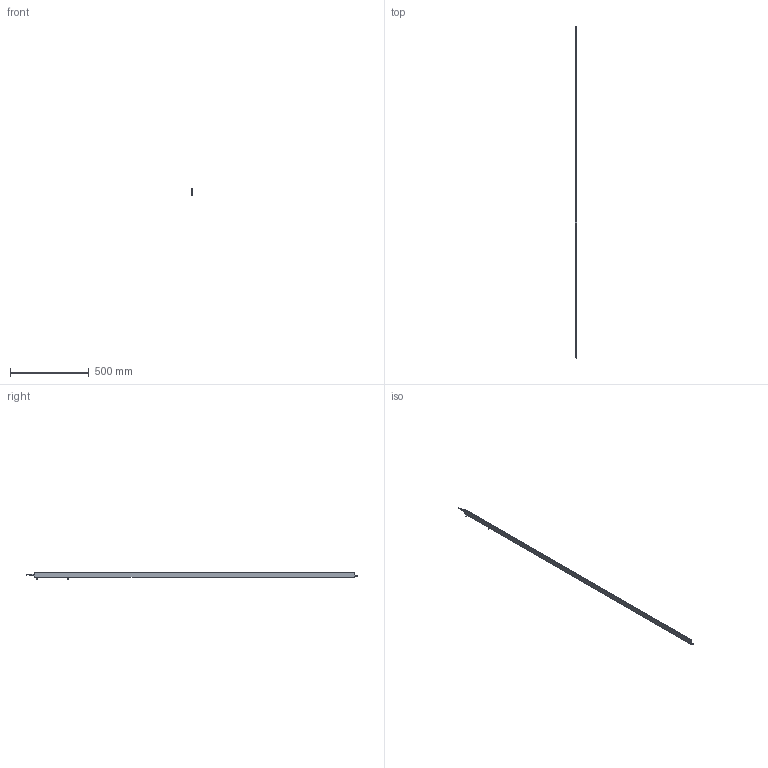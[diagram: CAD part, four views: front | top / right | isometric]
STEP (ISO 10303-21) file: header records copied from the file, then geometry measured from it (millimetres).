
FILE_DESCRIPTION (( 'STEP AP214' ), '1' );
FILE_NAME ('ILG-B-K2-2040mm.STEP', '2017-07-10T13:03:54', ( '' ), ( '' ), 'SwSTEP 2.0', 'SolidWorks 2016', '' );
FILE_SCHEMA (( 'AUTOMOTIVE_DESIGN' ));
Length unit declared in the file: millimetre
Products named in the file (1): ILG-B-K2-2040mm
Bounding box: 9 x 2113.5 x 46.21 mm (x, y, z)
Surface area: 339200.4 mm2 (no closed solid volume)
Topology: 0 solids, 15 shells, 702 faces, 1822 edges, 1157 vertices
Faces by surface type: cylinder 287, plane 266, cone 99, bspline 32, torus 18
Entity records: 31388 total; most frequent: CARTESIAN_POINT 6631, ORIENTED_EDGE 3597, DIRECTION 3488, EDGE_CURVE 1806, AXIS2_PLACEMENT_3D 1342, VERTEX_POINT 1157, LINE 804, VECTOR 804
